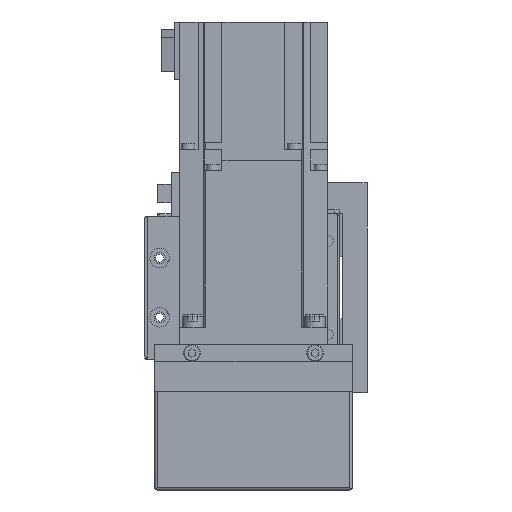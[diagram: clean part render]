
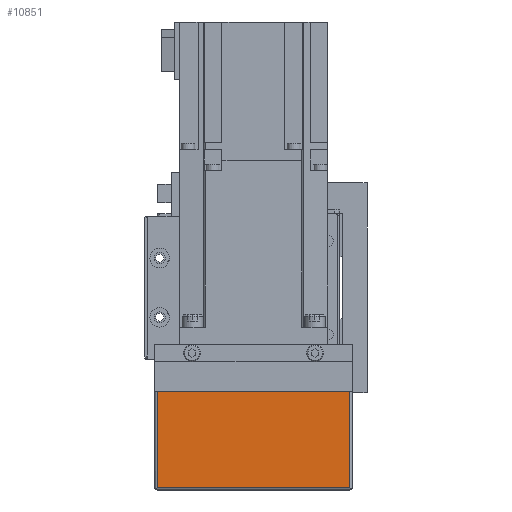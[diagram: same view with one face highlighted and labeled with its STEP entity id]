
A CAD part, left-side view. The second image highlights one B-rep face of the part: STEP entity #10851.
In plain terms, the highlighted planar face has unit normal (-1, 0, 0) as drawn and (0, 1, 0) by its records, which use the part's own axes.
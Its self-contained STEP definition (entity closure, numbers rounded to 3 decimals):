
#2530=ORIENTED_EDGE('',*,*,#4599,.T.);
#2531=ORIENTED_EDGE('',*,*,#4600,.T.);
#2532=ORIENTED_EDGE('',*,*,#4601,.F.);
#2533=ORIENTED_EDGE('',*,*,#4602,.T.);
#4599=EDGE_CURVE('',#5822,#5823,#6862,.T.);
#4600=EDGE_CURVE('',#5823,#5824,#6863,.T.);
#4601=EDGE_CURVE('',#5825,#5824,#6864,.T.);
#4602=EDGE_CURVE('',#5825,#5822,#6865,.T.);
#5822=VERTEX_POINT('',#17425);
#5823=VERTEX_POINT('',#17426);
#5824=VERTEX_POINT('',#17428);
#5825=VERTEX_POINT('',#17430);
#6862=LINE('',#17424,#7910);
#6863=LINE('',#17427,#7911);
#6864=LINE('',#17429,#7912);
#6865=LINE('',#17431,#7913);
#7910=VECTOR('',#14235,1000.);
#7911=VECTOR('',#14236,1000.);
#7912=VECTOR('',#14237,1000.);
#7913=VECTOR('',#14238,1000.);
#8899=EDGE_LOOP('',(#2530,#2531,#2532,#2533));
#9773=FACE_BOUND('',#8899,.T.);
#10321=PLANE('',#11837);
#10851=ADVANCED_FACE('',(#9773),#10321,.T.);
#11837=AXIS2_PLACEMENT_3D('',#17423,#14233,#14234);
#14233=DIRECTION('',(0.,1.,0.));
#14234=DIRECTION('',(0.,0.,1.));
#14235=DIRECTION('',(0.,0.,1.));
#14236=DIRECTION('',(1.,0.,0.));
#14237=DIRECTION('',(0.,0.,1.));
#14238=DIRECTION('',(-1.,0.,0.));
#17423=CARTESIAN_POINT('',(40.,151.,-52.));
#17424=CARTESIAN_POINT('',(-39.,151.,-64.));
#17425=CARTESIAN_POINT('',(-39.,151.,-51.));
#17426=CARTESIAN_POINT('',(-39.,151.,-12.01));
#17427=CARTESIAN_POINT('',(40.,151.,-12.01));
#17428=CARTESIAN_POINT('',(39.,151.,-12.01));
#17429=CARTESIAN_POINT('',(39.,151.,-64.));
#17430=CARTESIAN_POINT('',(39.,151.,-51.));
#17431=CARTESIAN_POINT('',(52.,151.,-51.));
